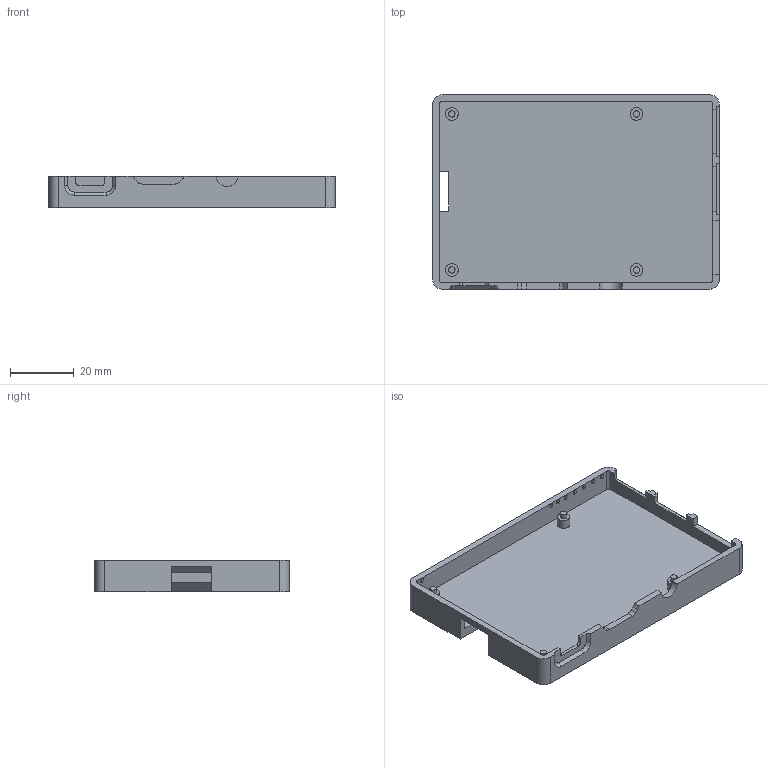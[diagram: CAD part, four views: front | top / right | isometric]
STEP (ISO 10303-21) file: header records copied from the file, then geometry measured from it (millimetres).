
FILE_DESCRIPTION(/* description */ (''),/* implementation_level */ '2;1');
FILE_NAME(/* name */ 'bottom',/* time_stamp */ '2018-12-30T13:35:36+00:00',/* author */ (''),/* organization */ (''),/* preprocessor_version */ 'ST-DEVELOPER v16.5',/* originating_system */ '',/* authorisation */ '');
FILE_SCHEMA (('AUTOMOTIVE_DESIGN'));
Length unit declared in the file: millimetre
Products named in the file (1): Document
Bounding box: 90 x 61 x 10 mm (x, y, z)
Volume: 19823.1 mm3; surface area: 15654.3 mm2
Topology: 1 solids, 1 shells, 117 faces, 341 edges, 188 vertices
Faces by surface type: bspline 59, plane 58
Entity records: 4624 total; most frequent: CARTESIAN_POINT 2837, ORIENTED_EDGE 558, EDGE_CURVE 279, VERTEX_POINT 188, B_SPLINE_CURVE_WITH_KNOTS 163, EDGE_LOOP 143, ADVANCED_FACE 117, FACE_OUTER_BOUND 117
